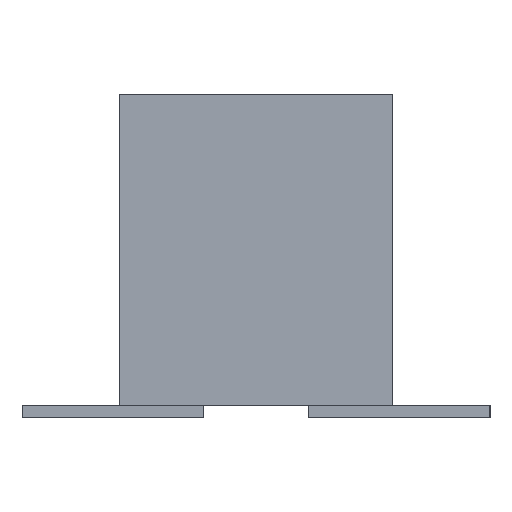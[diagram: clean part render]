
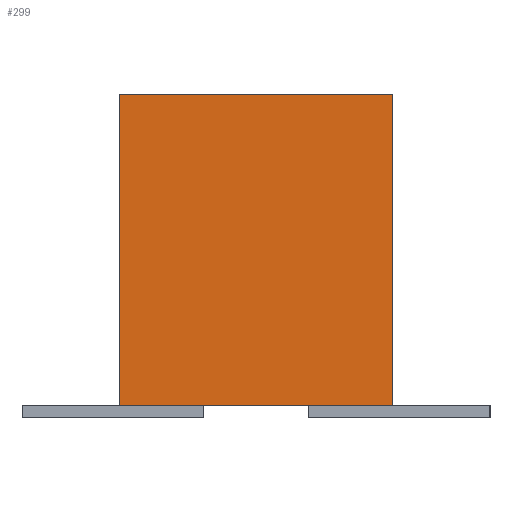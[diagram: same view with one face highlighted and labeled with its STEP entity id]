
A CAD part, left-side view. The second image highlights one B-rep face of the part: STEP entity #299.
In plain terms, the highlighted planar face has unit normal (-1, 0, 0).
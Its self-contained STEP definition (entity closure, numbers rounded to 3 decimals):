
#36 = EDGE_CURVE('',#37,#39,#41,.T.);
#37 = VERTEX_POINT('',#38);
#38 = CARTESIAN_POINT('',(-4.35,1.1,0.));
#39 = VERTEX_POINT('',#40);
#40 = CARTESIAN_POINT('',(-4.35,1.1,2.5));
#41 = SURFACE_CURVE('',#42,(#46,#58),.PCURVE_S1.);
#42 = LINE('',#43,#44);
#43 = CARTESIAN_POINT('',(-4.35,1.1,0.));
#44 = VECTOR('',#45,1.);
#45 = DIRECTION('',(0.,0.,1.));
#46 = PCURVE('',#47,#52);
#47 = PLANE('',#48);
#48 = AXIS2_PLACEMENT_3D('',#49,#50,#51);
#49 = CARTESIAN_POINT('',(-4.35,1.1,0.));
#50 = DIRECTION('',(0.,1.,0.));
#51 = DIRECTION('',(1.,0.,0.));
#52 = DEFINITIONAL_REPRESENTATION('',(#53),#57);
#53 = LINE('',#54,#55);
#54 = CARTESIAN_POINT('',(0.,0.));
#55 = VECTOR('',#56,1.);
#56 = DIRECTION('',(0.,-1.));
#57 = ( GEOMETRIC_REPRESENTATION_CONTEXT(2) 
PARAMETRIC_REPRESENTATION_CONTEXT() REPRESENTATION_CONTEXT('2D SPACE',''
  ) );
#58 = PCURVE('',#59,#64);
#59 = PLANE('',#60);
#60 = AXIS2_PLACEMENT_3D('',#61,#62,#63);
#61 = CARTESIAN_POINT('',(-4.35,-1.1,0.));
#62 = DIRECTION('',(-1.,0.,0.));
#63 = DIRECTION('',(0.,1.,0.));
#64 = DEFINITIONAL_REPRESENTATION('',(#65),#69);
#65 = LINE('',#66,#67);
#66 = CARTESIAN_POINT('',(2.2,0.));
#67 = VECTOR('',#68,1.);
#68 = DIRECTION('',(0.,-1.));
#69 = ( GEOMETRIC_REPRESENTATION_CONTEXT(2) 
PARAMETRIC_REPRESENTATION_CONTEXT() REPRESENTATION_CONTEXT('2D SPACE',''
  ) );
#87 = PLANE('',#88);
#88 = AXIS2_PLACEMENT_3D('',#89,#90,#91);
#89 = CARTESIAN_POINT('',(0.,0.,2.5));
#90 = DIRECTION('',(-0.,-0.,-1.));
#91 = DIRECTION('',(-1.,0.,0.));
#141 = PLANE('',#142);
#142 = AXIS2_PLACEMENT_3D('',#143,#144,#145);
#143 = CARTESIAN_POINT('',(0.,0.,0.));
#144 = DIRECTION('',(-0.,-0.,-1.));
#145 = DIRECTION('',(-1.,0.,0.));
#196 = PLANE('',#197);
#197 = AXIS2_PLACEMENT_3D('',#198,#199,#200);
#198 = CARTESIAN_POINT('',(4.35,-1.1,0.));
#199 = DIRECTION('',(0.,-1.,0.));
#200 = DIRECTION('',(-1.,0.,0.));
#234 = VERTEX_POINT('',#235);
#235 = CARTESIAN_POINT('',(-4.35,-1.1,2.5));
#256 = EDGE_CURVE('',#257,#234,#259,.T.);
#257 = VERTEX_POINT('',#258);
#258 = CARTESIAN_POINT('',(-4.35,-1.1,0.));
#259 = SURFACE_CURVE('',#260,(#264,#271),.PCURVE_S1.);
#260 = LINE('',#261,#262);
#261 = CARTESIAN_POINT('',(-4.35,-1.1,0.));
#262 = VECTOR('',#263,1.);
#263 = DIRECTION('',(0.,0.,1.));
#264 = PCURVE('',#196,#265);
#265 = DEFINITIONAL_REPRESENTATION('',(#266),#270);
#266 = LINE('',#267,#268);
#267 = CARTESIAN_POINT('',(8.7,0.));
#268 = VECTOR('',#269,1.);
#269 = DIRECTION('',(0.,-1.));
#270 = ( GEOMETRIC_REPRESENTATION_CONTEXT(2) 
PARAMETRIC_REPRESENTATION_CONTEXT() REPRESENTATION_CONTEXT('2D SPACE',''
  ) );
#271 = PCURVE('',#59,#272);
#272 = DEFINITIONAL_REPRESENTATION('',(#273),#277);
#273 = LINE('',#274,#275);
#274 = CARTESIAN_POINT('',(0.,0.));
#275 = VECTOR('',#276,1.);
#276 = DIRECTION('',(0.,-1.));
#277 = ( GEOMETRIC_REPRESENTATION_CONTEXT(2) 
PARAMETRIC_REPRESENTATION_CONTEXT() REPRESENTATION_CONTEXT('2D SPACE',''
  ) );
#299 = ADVANCED_FACE('',(#300),#59,.T.);
#300 = FACE_BOUND('',#301,.T.);
#301 = EDGE_LOOP('',(#302,#303,#324,#325));
#302 = ORIENTED_EDGE('',*,*,#256,.T.);
#303 = ORIENTED_EDGE('',*,*,#304,.T.);
#304 = EDGE_CURVE('',#234,#39,#305,.T.);
#305 = SURFACE_CURVE('',#306,(#310,#317),.PCURVE_S1.);
#306 = LINE('',#307,#308);
#307 = CARTESIAN_POINT('',(-4.35,-1.1,2.5));
#308 = VECTOR('',#309,1.);
#309 = DIRECTION('',(0.,1.,0.));
#310 = PCURVE('',#59,#311);
#311 = DEFINITIONAL_REPRESENTATION('',(#312),#316);
#312 = LINE('',#313,#314);
#313 = CARTESIAN_POINT('',(0.,-2.5));
#314 = VECTOR('',#315,1.);
#315 = DIRECTION('',(1.,0.));
#316 = ( GEOMETRIC_REPRESENTATION_CONTEXT(2) 
PARAMETRIC_REPRESENTATION_CONTEXT() REPRESENTATION_CONTEXT('2D SPACE',''
  ) );
#317 = PCURVE('',#87,#318);
#318 = DEFINITIONAL_REPRESENTATION('',(#319),#323);
#319 = LINE('',#320,#321);
#320 = CARTESIAN_POINT('',(4.35,-1.1));
#321 = VECTOR('',#322,1.);
#322 = DIRECTION('',(0.,1.));
#323 = ( GEOMETRIC_REPRESENTATION_CONTEXT(2) 
PARAMETRIC_REPRESENTATION_CONTEXT() REPRESENTATION_CONTEXT('2D SPACE',''
  ) );
#324 = ORIENTED_EDGE('',*,*,#36,.F.);
#325 = ORIENTED_EDGE('',*,*,#326,.F.);
#326 = EDGE_CURVE('',#257,#37,#327,.T.);
#327 = SURFACE_CURVE('',#328,(#332,#339),.PCURVE_S1.);
#328 = LINE('',#329,#330);
#329 = CARTESIAN_POINT('',(-4.35,-1.1,0.));
#330 = VECTOR('',#331,1.);
#331 = DIRECTION('',(0.,1.,0.));
#332 = PCURVE('',#59,#333);
#333 = DEFINITIONAL_REPRESENTATION('',(#334),#338);
#334 = LINE('',#335,#336);
#335 = CARTESIAN_POINT('',(0.,0.));
#336 = VECTOR('',#337,1.);
#337 = DIRECTION('',(1.,0.));
#338 = ( GEOMETRIC_REPRESENTATION_CONTEXT(2) 
PARAMETRIC_REPRESENTATION_CONTEXT() REPRESENTATION_CONTEXT('2D SPACE',''
  ) );
#339 = PCURVE('',#141,#340);
#340 = DEFINITIONAL_REPRESENTATION('',(#341),#345);
#341 = LINE('',#342,#343);
#342 = CARTESIAN_POINT('',(4.35,-1.1));
#343 = VECTOR('',#344,1.);
#344 = DIRECTION('',(0.,1.));
#345 = ( GEOMETRIC_REPRESENTATION_CONTEXT(2) 
PARAMETRIC_REPRESENTATION_CONTEXT() REPRESENTATION_CONTEXT('2D SPACE',''
  ) );
